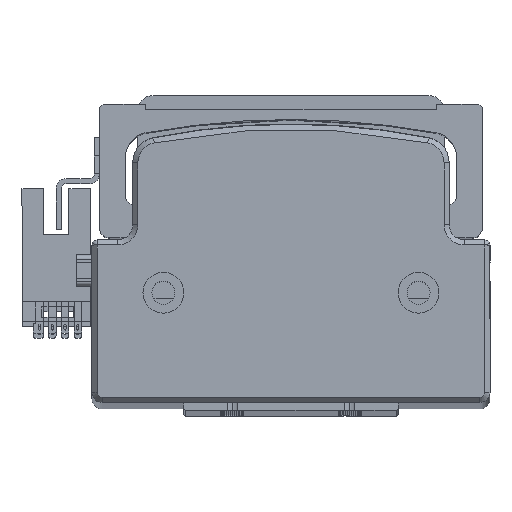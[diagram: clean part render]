
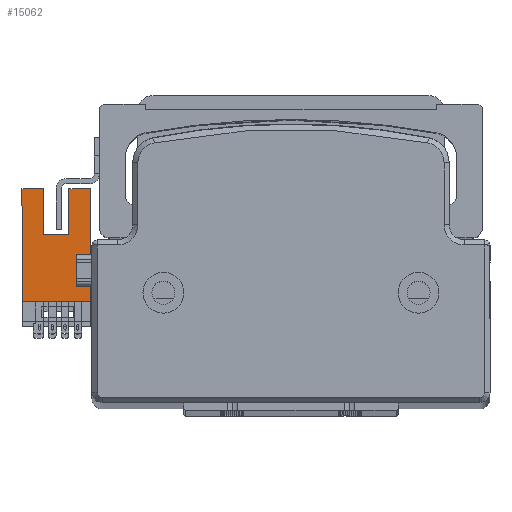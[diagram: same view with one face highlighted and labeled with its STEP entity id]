
A CAD part, top view. The second image highlights one B-rep face of the part: STEP entity #15062.
In plain terms, the highlighted planar face has unit normal (0, 0, 1) as drawn and (1, 0, 0) by its records, which use the part's own axes.
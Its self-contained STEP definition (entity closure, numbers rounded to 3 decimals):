
#926 = PLANE ( 'NONE',  #25358 ) ;
#1040 = DIRECTION ( 'NONE',  ( 0., -1., 0. ) ) ;
#1227 = VERTEX_POINT ( 'NONE', #15541 ) ;
#1469 = VECTOR ( 'NONE', #40850, 1000. ) ;
#2279 = DIRECTION ( 'NONE',  ( 0., 1., 0. ) ) ;
#2354 = DIRECTION ( 'NONE',  ( 0., 0., 1. ) ) ;
#3137 = LINE ( 'NONE', #14641, #41729 ) ;
#4724 = DIRECTION ( 'NONE',  ( 0., 0., -1. ) ) ;
#5665 = EDGE_CURVE ( 'NONE', #38218, #1227, #30995, .T. ) ;
#6638 = VECTOR ( 'NONE', #21132, 1000. ) ;
#7922 = ORIENTED_EDGE ( 'NONE', *, *, #34445, .T. ) ;
#8240 = VERTEX_POINT ( 'NONE', #45650 ) ;
#8921 = LINE ( 'NONE', #29940, #17794 ) ;
#9239 = EDGE_CURVE ( 'NONE', #25283, #18589, #42263, .T. ) ;
#11410 = DIRECTION ( 'NONE',  ( 0., 0., 1. ) ) ;
#11518 = LINE ( 'NONE', #18595, #1469 ) ;
#11994 = CARTESIAN_POINT ( 'NONE',  ( 3.2, 3.85, 0. ) ) ;
#13203 = CARTESIAN_POINT ( 'NONE',  ( 3.2, 3.85, 9.2 ) ) ;
#14641 = CARTESIAN_POINT ( 'NONE',  ( 3.2, 3.85, 0. ) ) ;
#15062 = ADVANCED_FACE ( 'NONE', ( #36674 ), #926, .T. ) ;
#15090 = CARTESIAN_POINT ( 'NONE',  ( 3.2, 6.55, 0. ) ) ;
#15209 = CARTESIAN_POINT ( 'NONE',  ( 3.2, 6.55, 0. ) ) ;
#15249 = LINE ( 'NONE', #15090, #23940 ) ;
#15541 = CARTESIAN_POINT ( 'NONE',  ( 3.2, 2.35, 13.2 ) ) ;
#15785 = DIRECTION ( 'NONE',  ( 0., 0., 1. ) ) ;
#16172 = CARTESIAN_POINT ( 'NONE',  ( 3.2, 2.35, 13.2 ) ) ;
#16364 = CARTESIAN_POINT ( 'NONE',  ( 3.2, -6.85, 0. ) ) ;
#16522 = CARTESIAN_POINT ( 'NONE',  ( 3.2, -2.65, 13.2 ) ) ;
#17794 = VECTOR ( 'NONE', #11410, 1000. ) ;
#18589 = VERTEX_POINT ( 'NONE', #37348 ) ;
#18595 = CARTESIAN_POINT ( 'NONE',  ( 3.2, 2.35, 13.2 ) ) ;
#18968 = LINE ( 'NONE', #35105, #46316 ) ;
#19529 = CARTESIAN_POINT ( 'NONE',  ( 3.2, 3.85, 0. ) ) ;
#19797 = CARTESIAN_POINT ( 'NONE',  ( 3.2, 3.85, 22.2 ) ) ;
#19830 = ORIENTED_EDGE ( 'NONE', *, *, #36565, .F. ) ;
#20339 = VERTEX_POINT ( 'NONE', #46847 ) ;
#21109 = CARTESIAN_POINT ( 'NONE',  ( 3.2, -2.65, 13.2 ) ) ;
#21132 = DIRECTION ( 'NONE',  ( 0., 1., 0. ) ) ;
#23438 = ORIENTED_EDGE ( 'NONE', *, *, #30311, .T. ) ;
#23909 = ORIENTED_EDGE ( 'NONE', *, *, #31238, .T. ) ;
#23940 = VECTOR ( 'NONE', #41108, 1000. ) ;
#24862 = CARTESIAN_POINT ( 'NONE',  ( 3.2, 3.85, 3. ) ) ;
#25283 = VERTEX_POINT ( 'NONE', #16364 ) ;
#25358 = AXIS2_PLACEMENT_3D ( 'NONE', #19529, #27119, #4724 ) ;
#25450 = EDGE_LOOP ( 'NONE', ( #36890, #23909, #47186, #34813, #23438, #42322, #33729, #7922, #41228, #34050, #19830, #31594 ) ) ;
#25792 = VERTEX_POINT ( 'NONE', #15209 ) ;
#26599 = VERTEX_POINT ( 'NONE', #43286 ) ;
#27119 = DIRECTION ( 'NONE',  ( 1., 0., 0. ) ) ;
#29264 = LINE ( 'NONE', #21109, #36860 ) ;
#29515 = VECTOR ( 'NONE', #2279, 1000. ) ;
#29825 = VECTOR ( 'NONE', #45964, 1000. ) ;
#29940 = CARTESIAN_POINT ( 'NONE',  ( 3.2, 6.55, 0. ) ) ;
#30311 = EDGE_CURVE ( 'NONE', #25792, #31216, #15249, .T. ) ;
#30995 = LINE ( 'NONE', #16172, #29825 ) ;
#31216 = VERTEX_POINT ( 'NONE', #42076 ) ;
#31238 = EDGE_CURVE ( 'NONE', #37737, #18589, #31483, .T. ) ;
#31483 = LINE ( 'NONE', #19797, #41422 ) ;
#31594 = ORIENTED_EDGE ( 'NONE', *, *, #5665, .F. ) ;
#32089 = CARTESIAN_POINT ( 'NONE',  ( 3.2, -6.85, 0. ) ) ;
#32341 = VECTOR ( 'NONE', #39606, 1000. ) ;
#33316 = DIRECTION ( 'NONE',  ( 0., -1., 0. ) ) ;
#33729 = ORIENTED_EDGE ( 'NONE', *, *, #47836, .T. ) ;
#34050 = ORIENTED_EDGE ( 'NONE', *, *, #43966, .T. ) ;
#34374 = VERTEX_POINT ( 'NONE', #13203 ) ;
#34445 = EDGE_CURVE ( 'NONE', #34374, #8240, #40636, .T. ) ;
#34548 = CARTESIAN_POINT ( 'NONE',  ( 3.2, 6.55, 22.2 ) ) ;
#34610 = EDGE_CURVE ( 'NONE', #25792, #25283, #3137, .T. ) ;
#34813 = ORIENTED_EDGE ( 'NONE', *, *, #34610, .F. ) ;
#35105 = CARTESIAN_POINT ( 'NONE',  ( 3.2, 3.85, 22.2 ) ) ;
#36565 = EDGE_CURVE ( 'NONE', #1227, #20339, #11518, .T. ) ;
#36674 = FACE_OUTER_BOUND ( 'NONE', #25450, .T. ) ;
#36860 = VECTOR ( 'NONE', #2354, 1000. ) ;
#36890 = ORIENTED_EDGE ( 'NONE', *, *, #40859, .T. ) ;
#37348 = CARTESIAN_POINT ( 'NONE',  ( 3.2, -6.85, 22.2 ) ) ;
#37737 = VERTEX_POINT ( 'NONE', #47172 ) ;
#37740 = EDGE_CURVE ( 'NONE', #26599, #31216, #45156, .T. ) ;
#38218 = VERTEX_POINT ( 'NONE', #16522 ) ;
#38259 = VECTOR ( 'NONE', #15785, 1000. ) ;
#39456 = LINE ( 'NONE', #11994, #38259 ) ;
#39606 = DIRECTION ( 'NONE',  ( 0., 0., 1. ) ) ;
#40636 = LINE ( 'NONE', #47067, #29515 ) ;
#40850 = DIRECTION ( 'NONE',  ( 0., 0., 1. ) ) ;
#40859 = EDGE_CURVE ( 'NONE', #38218, #37737, #29264, .T. ) ;
#41108 = DIRECTION ( 'NONE',  ( 0., 0., 1. ) ) ;
#41228 = ORIENTED_EDGE ( 'NONE', *, *, #44948, .T. ) ;
#41422 = VECTOR ( 'NONE', #1040, 1000. ) ;
#41729 = VECTOR ( 'NONE', #33316, 1000. ) ;
#42076 = CARTESIAN_POINT ( 'NONE',  ( 3.2, 6.55, 3. ) ) ;
#42263 = LINE ( 'NONE', #32089, #32341 ) ;
#42322 = ORIENTED_EDGE ( 'NONE', *, *, #37740, .F. ) ;
#42606 = DIRECTION ( 'NONE',  ( 0., -1., 0. ) ) ;
#43286 = CARTESIAN_POINT ( 'NONE',  ( 3.2, 3.85, 3. ) ) ;
#43966 = EDGE_CURVE ( 'NONE', #48306, #20339, #18968, .T. ) ;
#44948 = EDGE_CURVE ( 'NONE', #8240, #48306, #8921, .T. ) ;
#45156 = LINE ( 'NONE', #24862, #6638 ) ;
#45650 = CARTESIAN_POINT ( 'NONE',  ( 3.2, 6.55, 9.2 ) ) ;
#45964 = DIRECTION ( 'NONE',  ( 0., 1., 0. ) ) ;
#46316 = VECTOR ( 'NONE', #42606, 1000. ) ;
#46847 = CARTESIAN_POINT ( 'NONE',  ( 3.2, 2.35, 22.2 ) ) ;
#47067 = CARTESIAN_POINT ( 'NONE',  ( 3.2, -6.85, 9.2 ) ) ;
#47172 = CARTESIAN_POINT ( 'NONE',  ( 3.2, -2.65, 22.2 ) ) ;
#47186 = ORIENTED_EDGE ( 'NONE', *, *, #9239, .F. ) ;
#47836 = EDGE_CURVE ( 'NONE', #26599, #34374, #39456, .T. ) ;
#48306 = VERTEX_POINT ( 'NONE', #34548 ) ;
